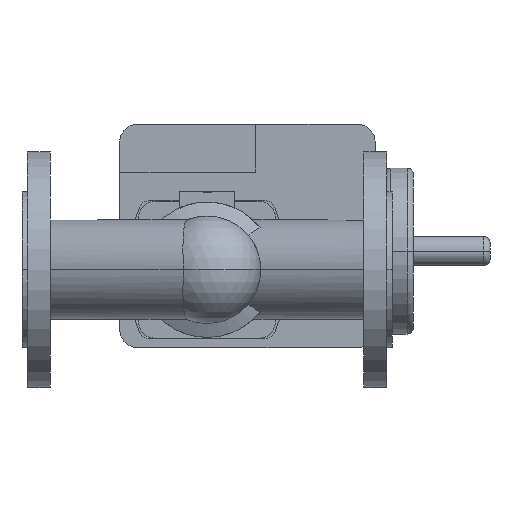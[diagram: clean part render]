
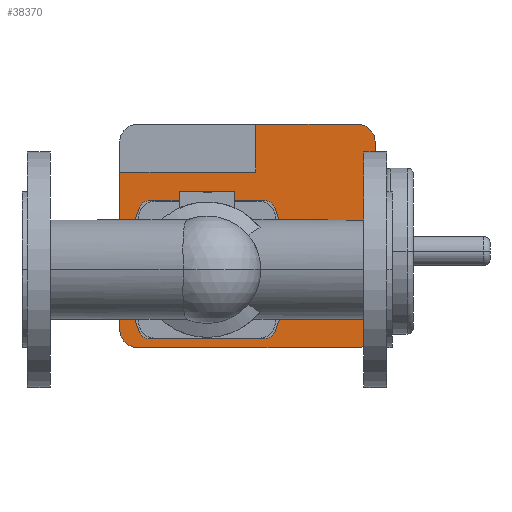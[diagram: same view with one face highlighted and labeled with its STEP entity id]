
A CAD part, front view. The second image highlights one B-rep face of the part: STEP entity #38370.
In plain terms, the highlighted planar face has unit normal (0, -1, 0).
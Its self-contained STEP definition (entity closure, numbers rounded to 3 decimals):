
#36190=CARTESIAN_POINT('',(189.784,406.,54.2));
#36200=VERTEX_POINT('',#36190);
#36230=CARTESIAN_POINT('',(189.784,406.,45.2));
#36240=DIRECTION('',(0.,1.,0.));
#36250=DIRECTION('',(0.,0.,1.));
#36260=AXIS2_PLACEMENT_3D('',#36230,#36240,#36250);
#36270=CIRCLE('',#36260,9.);
#36280=CARTESIAN_POINT('',(197.942,406.,49.002));
#36290=VERTEX_POINT('',#36280);
#36300=EDGE_CURVE('',#36200,#36290,#36270,.T.);
#36480=CARTESIAN_POINT('',(92.8,406.,0.));
#36490=DIRECTION('',(0.,1.,0.));
#36500=DIRECTION('',(0.906,0.,0.422));
#36510=AXIS2_PLACEMENT_3D('',#36480,#36490,#36500);
#36520=CIRCLE('',#36510,116.);
#36530=CARTESIAN_POINT('',(197.942,406.,-49.002));
#36540=VERTEX_POINT('',#36530);
#36550=EDGE_CURVE('',#36290,#36540,#36520,.T.);
#36730=CARTESIAN_POINT('',(189.784,406.,-45.2));
#36740=DIRECTION('',(0.,1.,0.));
#36750=DIRECTION('',(0.906,0.,-0.422));
#36760=AXIS2_PLACEMENT_3D('',#36730,#36740,#36750);
#36770=CIRCLE('',#36760,9.);
#36780=CARTESIAN_POINT('',(189.784,406.,-54.2));
#36790=VERTEX_POINT('',#36780);
#36800=EDGE_CURVE('',#36540,#36790,#36770,.T.);
#36980=CARTESIAN_POINT('',(167.392,406.,-54.2));
#36990=DIRECTION('',(-1.,0.,0.));
#37000=VECTOR('',#36990,1.);
#37010=LINE('',#36980,#37000);
#37020=CARTESIAN_POINT('',(100.216,406.,-54.2));
#37030=VERTEX_POINT('',#37020);
#37040=EDGE_CURVE('',#36790,#37030,#37010,.T.);
#37160=CARTESIAN_POINT('',(145.,406.,0.));
#37170=DIRECTION('',(0.,1.,0.));
#37180=DIRECTION('',(0.,0.,1.));
#37190=AXIS2_PLACEMENT_3D('',#37160,#37170,#37180);
#37200=PLANE('',#37190);
#37210=CARTESIAN_POINT('',(197.2,406.,0.));
#37220=DIRECTION('',(0.,1.,0.));
#37230=DIRECTION('',(-0.906,0.,-0.422));
#37240=AXIS2_PLACEMENT_3D('',#37210,#37220,#37230);
#37250=CIRCLE('',#37240,116.);
#37260=CARTESIAN_POINT('',(92.058,406.,-49.002));
#37270=VERTEX_POINT('',#37260);
#37280=CARTESIAN_POINT('',(92.058,406.,49.002));
#37290=VERTEX_POINT('',#37280);
#37300=EDGE_CURVE('',#37270,#37290,#37250,.T.);
#37310=ORIENTED_EDGE('',*,*,#37300,.T.);
#37320=CARTESIAN_POINT('',(100.216,406.,-45.2));
#37330=DIRECTION('',(0.,1.,0.));
#37340=DIRECTION('',(0.,0.,-1.));
#37350=AXIS2_PLACEMENT_3D('',#37320,#37330,#37340);
#37360=CIRCLE('',#37350,9.);
#37370=EDGE_CURVE('',#37030,#37270,#37360,.T.);
#37380=ORIENTED_EDGE('',*,*,#37370,.T.);
#37390=ORIENTED_EDGE('',*,*,#37040,.T.);
#37400=ORIENTED_EDGE('',*,*,#36800,.T.);
#37410=ORIENTED_EDGE('',*,*,#36550,.T.);
#37420=ORIENTED_EDGE('',*,*,#36300,.T.);
#37430=CARTESIAN_POINT('',(122.608,406.,54.2));
#37440=DIRECTION('',(1.,0.,0.));
#37450=VECTOR('',#37440,1.);
#37460=LINE('',#37430,#37450);
#37470=CARTESIAN_POINT('',(100.216,406.,54.2));
#37480=VERTEX_POINT('',#37470);
#37490=EDGE_CURVE('',#37480,#36200,#37460,.T.);
#37500=ORIENTED_EDGE('',*,*,#37490,.T.);
#37510=CARTESIAN_POINT('',(100.216,406.,45.2));
#37520=DIRECTION('',(0.,1.,0.));
#37530=DIRECTION('',(-0.906,0.,0.422));
#37540=AXIS2_PLACEMENT_3D('',#37510,#37520,#37530);
#37550=CIRCLE('',#37540,9.);
#37560=EDGE_CURVE('',#37290,#37480,#37550,.T.);
#37570=ORIENTED_EDGE('',*,*,#37560,.T.);
#37580=EDGE_LOOP('',(#37570,#37500,#37420,#37410,#37400,#37390,#37380,
#37310));
#37590=FACE_BOUND('',#37580,.T.);
#37600=CARTESIAN_POINT('',(183.1,406.,38.25));
#37610=DIRECTION('',(0.,0.,-1.));
#37620=VECTOR('',#37610,1.);
#37630=LINE('',#37600,#37620);
#37640=CARTESIAN_POINT('',(183.1,406.,114.));
#37650=VERTEX_POINT('',#37640);
#37660=CARTESIAN_POINT('',(183.1,406.,76.5));
#37670=VERTEX_POINT('',#37660);
#37680=EDGE_CURVE('',#37650,#37670,#37630,.T.);
#37690=ORIENTED_EDGE('',*,*,#37680,.T.);
#37700=CARTESIAN_POINT('',(90.6,406.,114.));
#37710=DIRECTION('',(1.,0.,0.));
#37720=VECTOR('',#37710,1.);
#37730=LINE('',#37700,#37720);
#37740=CARTESIAN_POINT('',(262.6,406.,114.));
#37750=VERTEX_POINT('',#37740);
#37760=EDGE_CURVE('',#37650,#37750,#37730,.T.);
#37770=ORIENTED_EDGE('',*,*,#37760,.F.);
#37780=CARTESIAN_POINT('',(262.6,406.,100.));
#37790=DIRECTION('',(0.,1.,0.));
#37800=DIRECTION('',(0.,0.,1.));
#37810=AXIS2_PLACEMENT_3D('',#37780,#37790,#37800);
#37820=CIRCLE('',#37810,14.);
#37830=CARTESIAN_POINT('',(276.6,406.,100.));
#37840=VERTEX_POINT('',#37830);
#37850=EDGE_CURVE('',#37750,#37840,#37820,.T.);
#37860=ORIENTED_EDGE('',*,*,#37850,.F.);
#37870=CARTESIAN_POINT('',(276.6,406.,100.));
#37880=DIRECTION('',(0.,0.,-1.));
#37890=VECTOR('',#37880,1.);
#37900=LINE('',#37870,#37890);
#37910=CARTESIAN_POINT('',(276.6,406.,-47.));
#37920=VERTEX_POINT('',#37910);
#37930=EDGE_CURVE('',#37840,#37920,#37900,.T.);
#37940=ORIENTED_EDGE('',*,*,#37930,.F.);
#37950=CARTESIAN_POINT('',(262.6,406.,-47.));
#37960=DIRECTION('',(0.,1.,0.));
#37970=DIRECTION('',(1.,0.,0.));
#37980=AXIS2_PLACEMENT_3D('',#37950,#37960,#37970);
#37990=CIRCLE('',#37980,14.);
#38000=CARTESIAN_POINT('',(262.6,406.,-61.));
#38010=VERTEX_POINT('',#38000);
#38020=EDGE_CURVE('',#37920,#38010,#37990,.T.);
#38030=ORIENTED_EDGE('',*,*,#38020,.F.);
#38040=CARTESIAN_POINT('',(262.6,406.,-61.));
#38050=DIRECTION('',(-1.,0.,0.));
#38060=VECTOR('',#38050,1.);
#38070=LINE('',#38040,#38060);
#38080=CARTESIAN_POINT('',(90.6,406.,-61.));
#38090=VERTEX_POINT('',#38080);
#38100=EDGE_CURVE('',#38010,#38090,#38070,.T.);
#38110=ORIENTED_EDGE('',*,*,#38100,.F.);
#38120=CARTESIAN_POINT('',(90.6,406.,-47.));
#38130=DIRECTION('',(0.,1.,0.));
#38140=DIRECTION('',(0.,0.,-1.));
#38150=AXIS2_PLACEMENT_3D('',#38120,#38130,#38140);
#38160=CIRCLE('',#38150,14.);
#38170=CARTESIAN_POINT('',(76.6,406.,-47.));
#38180=VERTEX_POINT('',#38170);
#38190=EDGE_CURVE('',#38090,#38180,#38160,.T.);
#38200=ORIENTED_EDGE('',*,*,#38190,.F.);
#38210=CARTESIAN_POINT('',(76.6,406.,-47.));
#38220=DIRECTION('',(0.,0.,1.));
#38230=VECTOR('',#38220,1.);
#38240=LINE('',#38210,#38230);
#38250=CARTESIAN_POINT('',(76.6,406.,76.5));
#38260=VERTEX_POINT('',#38250);
#38270=EDGE_CURVE('',#38180,#38260,#38240,.T.);
#38280=ORIENTED_EDGE('',*,*,#38270,.F.);
#38290=CARTESIAN_POINT('',(110.3,406.,76.5));
#38300=DIRECTION('',(-1.,0.,0.));
#38310=VECTOR('',#38300,1.);
#38320=LINE('',#38290,#38310);
#38330=EDGE_CURVE('',#37670,#38260,#38320,.T.);
#38340=ORIENTED_EDGE('',*,*,#38330,.T.);
#38350=EDGE_LOOP('',(#38340,#38280,#38200,#38110,#38030,#37940,#37860,
#37770,#37690));
#38360=FACE_OUTER_BOUND('',#38350,.T.);
#38370=ADVANCED_FACE('',(#37590,#38360),#37200,.F.);
